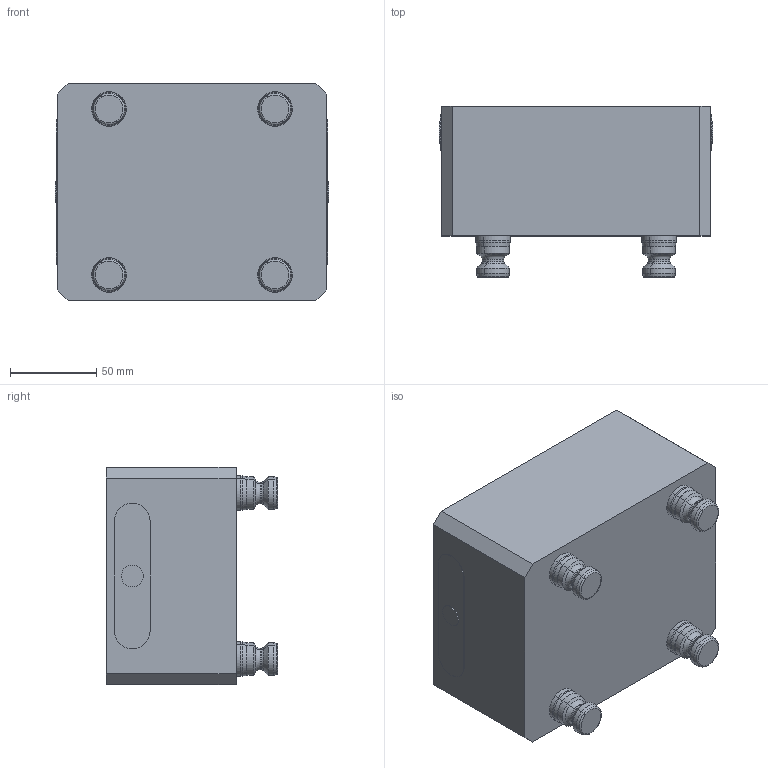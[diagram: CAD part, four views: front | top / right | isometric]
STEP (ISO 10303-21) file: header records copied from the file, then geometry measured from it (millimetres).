
FILE_DESCRIPTION (( 'STEP AP214' ), '1' );
FILE_NAME ('D_RL96A-356.STEP', '2020-03-11T16:27:23', ( '' ), ( '' ), 'SwSTEP 2.0', 'SolidWorks 2018', '' );
FILE_SCHEMA (( 'AUTOMOTIVE_DESIGN' ));
Length unit declared in the file: millimetre
Products named in the file (3): D_PS20F_HARD TURN; D_RL96A-356
Assembly tree (5 placements, depth 2):
  D_RL96A-356
    D_RL96A-356
    D_PS20F_HARD TURN  x4
Bounding box: 158 x 99 x 126 mm (x, y, z)
Volume: 1352379.1 mm3; surface area: 126294 mm2
Topology: 5 solids, 5 shells, 340 faces, 738 edges, 444 vertices
Faces by surface type: cylinder 148, plane 80, torus 64, cone 48
Entity records: 7591 total; most frequent: CARTESIAN_POINT 1557, DIRECTION 1212, ORIENTED_EDGE 1012, EDGE_CURVE 506, AXIS2_PLACEMENT_3D 505, VERTEX_POINT 324, CIRCLE 274, EDGE_LOOP 268
